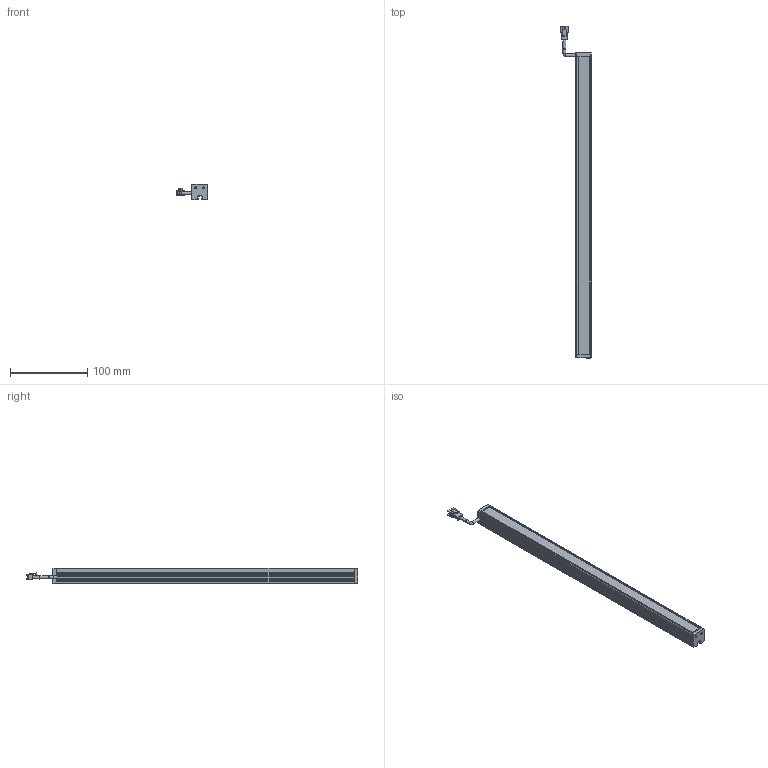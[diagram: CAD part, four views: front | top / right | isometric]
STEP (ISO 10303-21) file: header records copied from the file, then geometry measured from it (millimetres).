
FILE_DESCRIPTION(/* description */ (''),/* implementation_level */ '2;1');
FILE_NAME(/* name */ '',/* time_stamp */ '2024-02-21T10:29:35+08:00',/* author */ (''),/* organization */ (''),/* preprocessor_version */ 'ST-DEVELOPER v20',/* originating_system */ 'Autodesk Translation Framework v12.20.1.177',/* authorisation */ '');
FILE_SCHEMA (('AUTOMOTIVE_DESIGN { 1 0 10303 214 3 1 1 }'));
Length unit declared in the file: millimetre
Products named in the file (6): L20; 3拼母头 v2; 主体; 挡头; 挡头 (1); 漫射板
Assembly tree (5 placements, depth 2):
  L20
    3拼母头 v2
    主体
    挡头
    挡头 (1)
    漫射板
Bounding box: 40 x 429.7 x 20.5 mm (x, y, z)
Volume: 85579.1 mm3; surface area: 90814.8 mm2
Topology: 6 solids, 6 shells, 325 faces, 906 edges, 602 vertices
Faces by surface type: plane 240, cylinder 80, cone 4, torus 1
Full cylindrical faces by diameter (mm): 2.671 x4, 3.8 x3
Entity records: 10536 total; most frequent: CARTESIAN_POINT 1849, ORIENTED_EDGE 1804, DIRECTION 1750, EDGE_CURVE 902, LINE 724, VECTOR 724, VERTEX_POINT 602, AXIS2_PLACEMENT_3D 513
